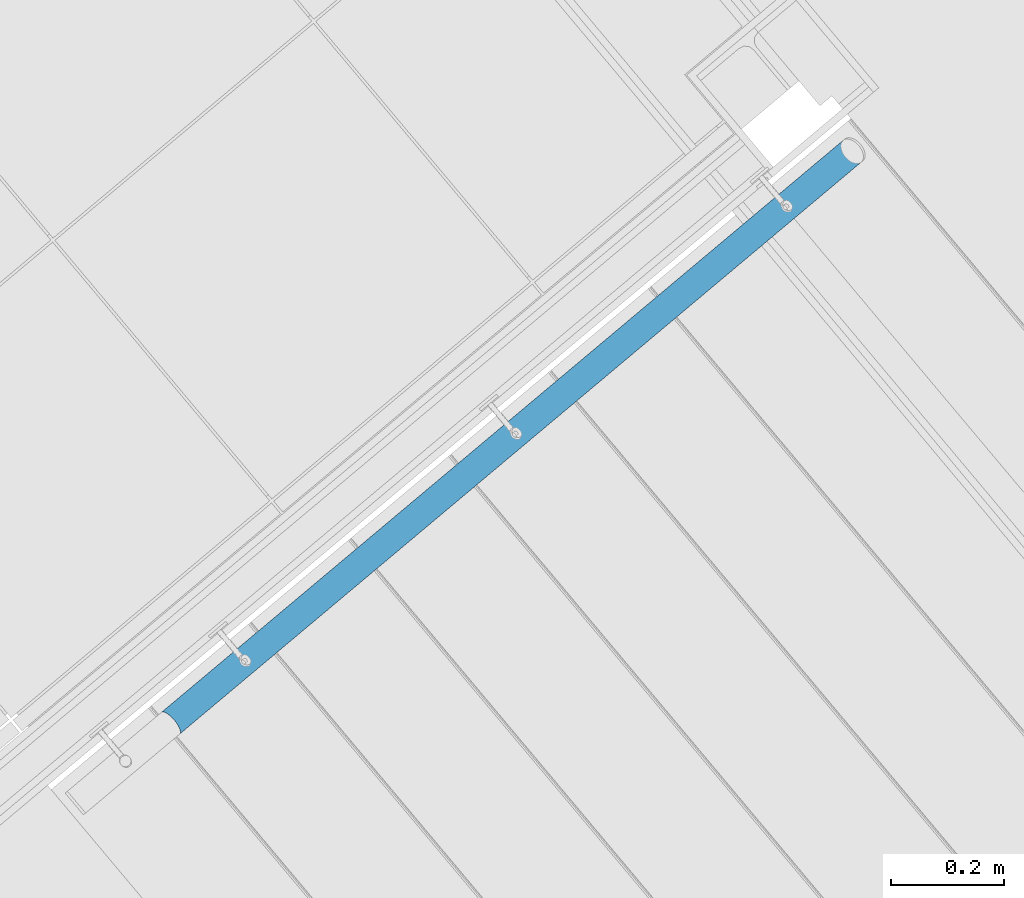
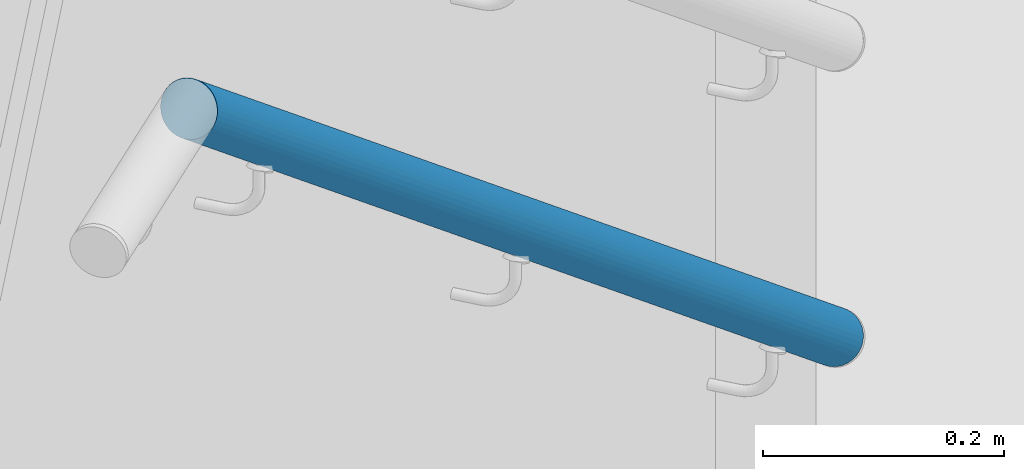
# One storey, part 13 of 338: 1 building element part, 2 elements without a shape of their own.
"""IFC2X3 building model written with IfcOpenShell, lengths in millimetres."""

from ifc_helpers import new_model, entity, si_unit, converted_unit, derived_unit, money_unit, direction, frame, origin_with_axes, place, context, subcontext, project, spatial, faceted_brep, source, transform, mapped, material, type_object, element, aggregate, save


model = new_model("IFC2X3")

# Units and contexts
model_context = context("Model", 3, precision=0.01, world=origin_with_axes(), true_north=direction((0.0, 1.0)))
plan_context = context("Plan", 3, precision=0.01, world=origin_with_axes(), true_north=direction((0.0, 1.0)))
body_context = subcontext(model_context, "Body", "Model", "MODEL_VIEW")
ifc_project = project(units=[si_unit("LENGTHUNIT", "METRE", prefix="MILLI"), si_unit("AREAUNIT", "SQUARE_METRE"), si_unit("VOLUMEUNIT", "CUBIC_METRE"), converted_unit("PLANEANGLEUNIT", "DEGREE", entity("IfcPlaneAngleMeasure", 0.0174532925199), si_unit("PLANEANGLEUNIT", "RADIAN"), dimensions=[0, 0, 0, 0, 0, 0, 0]), money_unit("EUR"), converted_unit("TIMEUNIT", "Year", entity("IfcTimeMeasure", 31556926.0), si_unit("TIMEUNIT", "SECOND"), dimensions=[0, 0, 1, 0, 0, 0, 0]), si_unit("MASSUNIT", "GRAM", prefix="KILO"), si_unit("THERMODYNAMICTEMPERATUREUNIT", "DEGREE_CELSIUS"), si_unit("LUMINOUSINTENSITYUNIT", "LUMEN"), si_unit("ENERGYUNIT", "JOULE", prefix="MEGA"), derived_unit("THERMALCONDUCTANCEUNIT", [(si_unit("POWERUNIT", "WATT"), 1), (si_unit("LENGTHUNIT", "METRE"), -1), (si_unit("THERMODYNAMICTEMPERATUREUNIT", "KELVIN"), -1)]), derived_unit("SPECIFICHEATCAPACITYUNIT", [(si_unit("ENERGYUNIT", "JOULE"), 1), (si_unit("MASSUNIT", "GRAM", prefix="KILO"), -1), (si_unit("THERMODYNAMICTEMPERATUREUNIT", "KELVIN"), -1)]), derived_unit("MASSDENSITYUNIT", [(si_unit("MASSUNIT", "GRAM", prefix="KILO"), 1), (si_unit("VOLUMEUNIT", "CUBIC_METRE"), -1)])], contexts=[model_context, plan_context])

# Site, building, storey
site_placement = place(None, origin_with_axes())
site = spatial("IfcSite", under=ifc_project, at=site_placement, Name="Fortuinstraat Woensdrecht", CompositionType="ELEMENT")
building_placement = place(site_placement, origin_with_axes())
building = spatial("IfcBuilding", under=site, at=building_placement, Name="IKC Fortuna", CompositionType="ELEMENT")
storey_placement = place(building_placement, origin_with_axes())
storey = spatial("IfcBuildingStorey", under=building, at=storey_placement, Name="00 begane grond", CompositionType="ELEMENT", Elevation=0.0)

# Railing, member, building element part
railing_type = type_object("IfcRailingType", Name="Railing Type", PredefinedType="NOTDEFINED")
railing_placement = place(storey_placement, frame((18628.4030383, 5997.03974934, -275.0), z_axis=(0.0, 0.0, 1.0), x_axis=(0.173648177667, 0.984807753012, 0.0)))
railing = element("IfcRailing", 1, at=railing_placement, inside=storey, type_object=railing_type, Name="_Reling_Reling-x", PredefinedType="NOTDEFINED")
member_type = type_object("IfcMemberType", Name="IfcMember", PredefinedType="USERDEFINED")
member_placement = place(railing_placement, frame((-765.432026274, 437.395073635, 1025.34830056), z_axis=(0.0, 0.0, 1.0), x_axis=(0.173648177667, -0.984807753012, 0.0)))
member = element("IfcMember", 2, at=member_placement, type_object=member_type, Name="_Reling - regel_Handregel-x")
aggregate(railing, [member])
ifc_material = material(Name="Hout AFW")
shared_shape = source(origin_with_axes(), body_context, "Body", "Brep", [
    faceted_brep([(68.3343935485, -105.836546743, 880.531152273), (70.1764780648, -103.795052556, 883.911882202), (-1131.99702596, -1112.53839639, 2148.09120444), (-1132.92574558, -1113.81348644, 2143.75), (66.0040396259, -107.296144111, 877.150422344), (63.2562229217, -108.129495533, 873.872414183), (60.1744344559, -108.311280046, 870.796728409), (56.8523128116, -107.835974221, 868.016818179), (53.390798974, -106.718019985, 865.617149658), (49.8950692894, -104.991385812, 863.670635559), (46.4713397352, -102.708534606, 862.236419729), (43.2236386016, -99.9388296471, 861.358080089), (40.2506456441, -96.7664270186, 861.062304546), (37.6426937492, -93.2877185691, 861.358080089), (35.4790242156, -89.6084030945, 862.236419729), (33.8253790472, -85.8402747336, 863.670635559), (32.7320034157, -82.09782616, 865.617149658), (32.2321189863, -78.4947697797, 868.016818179), (32.3409144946, -75.1405826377, 870.796728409), (33.0550842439, -72.137180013, 873.872414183), (34.3529285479, -69.5758187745, 877.150422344), (36.1950130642, -67.5343245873, 880.531152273), (38.5253669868, -66.0747272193, 883.911882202), (41.2731836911, -65.2413757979, 887.189890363), (44.3549721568, -65.0595912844, 890.265576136), (47.6770938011, -65.5348971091, 893.045486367), (51.1386076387, -66.6528513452, 895.445154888), (54.6343373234, -68.3794855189, 897.391668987), (58.0580668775, -70.6623367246, 898.825884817), (61.3057680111, -73.4320416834, 899.704224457), (64.2787609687, -76.6044443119, 900.0), (66.8867128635, -80.0831527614, 899.704224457), (69.0503823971, -83.762468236, 898.825884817), (70.7040275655, -87.5305965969, 897.391668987), (71.797403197, -91.2730451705, 895.445154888), (72.2972876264, -94.8761015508, 893.045486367), (72.1884921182, -98.2302886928, 890.265576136), (71.4743223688, -101.233691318, 887.189890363), (-1131.58479442, -1110.7201525, 2152.30050358), (-1131.7015764, -1108.41400117, 2156.25), (-1132.34382356, -1105.69001365, 2159.81969024), (-1133.49202153, -1102.63095692, 2162.90111108), (-1135.11128289, -1099.32977887, 2165.40063509), (-1137.15240722, -1095.88678413, 2167.24231552), (-1139.55337598, -1092.40658634, 2168.37019383), (-1142.24123694, -1088.99492957, 2168.75), (-1145.13432083, -1085.75547527, 2168.37019383), (-1148.14472274, -1082.78665261, 2167.24231552), (-1151.18097313, -1080.17866779, 2165.40063509), (-1154.15081708, -1078.01076309, 2162.90111108), (-1156.96401738, -1076.3488092, 2159.81969024), (-1159.53509636, -1075.24330376, 2156.25), (-1161.78593309, -1074.72783698, 2152.30050358), (-1163.64813704, -1074.81807106, 2148.09120444), (-1165.06512607, -1075.51126428, 2143.75), (-1165.99384569, -1076.78635432, 2139.40879556), (-1166.40607723, -1078.60459822, 2135.19949642), (-1166.28929525, -1080.91074955, 2131.25), (-1165.64704809, -1083.63473707, 2127.68030976), (-1164.49885012, -1086.6937938, 2124.59888892), (-1162.87958876, -1089.99497185, 2122.09936491), (-1160.83846443, -1093.43796659, 2120.25768448), (-1158.43749567, -1096.91816437, 2119.12980617), (-1155.74963471, -1100.32982115, 2118.75), (-1152.85655082, -1103.56927545, 2119.12980617), (-1149.84614891, -1106.5380981, 2120.25768448), (-1146.80989852, -1109.14608293, 2122.09936491), (-1143.84005457, -1111.31398762, 2124.59888892), (-1141.02685427, -1112.97594151, 2127.68030976), (-1138.45577528, -1114.08144696, 2131.25), (-1136.20493856, -1114.59691374, 2135.19949642), (-1134.34273461, -1114.50667966, 2139.40879556)], [[[0, 1, 2, 3]], [[0, 4, 5, 6, 7, 8, 9, 10, 11, 12, 13, 14, 15, 16, 17, 18, 19, 20, 21, 22, 23, 24, 25, 26, 27, 28, 29, 30, 31, 32, 33, 34, 35, 36, 37, 1]], [[1, 37, 38, 2]], [[3, 2, 38, 39, 40, 41, 42, 43, 44, 45, 46, 47, 48, 49, 50, 51, 52, 53, 54, 55, 56, 57, 58, 59, 60, 61, 62, 63, 64, 65, 66, 67, 68, 69, 70, 71]], [[4, 0, 3, 71]], [[5, 4, 71, 70]], [[6, 5, 70, 69]], [[7, 6, 69, 68]], [[8, 7, 68, 67]], [[9, 8, 67, 66]], [[10, 9, 66, 65]], [[11, 10, 65, 64]], [[12, 11, 64, 63]], [[13, 12, 63, 62]], [[14, 13, 62, 61]], [[15, 14, 61, 60]], [[16, 15, 60, 59]], [[17, 16, 59, 58]], [[18, 17, 58, 57]], [[19, 18, 57, 56]], [[20, 19, 56, 55]], [[21, 20, 55, 54]], [[22, 21, 54, 53]], [[23, 22, 53, 52]], [[24, 23, 52, 51]], [[25, 24, 51, 50]], [[26, 25, 50, 49]], [[27, 26, 49, 48]], [[28, 27, 48, 47]], [[29, 28, 47, 46]], [[30, 29, 46, 45]], [[31, 30, 45, 44]], [[32, 31, 44, 43]], [[33, 32, 43, 42]], [[34, 33, 42, 41]], [[35, 34, 41, 40]], [[36, 35, 40, 39]], [[37, 36, 39, 38]]]),
])
building_element_part_placement = place(member_placement, origin_with_axes())
building_element_part = element("IfcBuildingElementPart", 3, at=building_element_part_placement, material=ifc_material, Name="Hout AFW", context=body_context, shape_type="MappedRepresentation", body=[
    mapped(shared_shape, transform((538.981237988, 582.79968694, -844.098300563))),
])
aggregate(member, [building_element_part])

save(model, "model.ifc")
